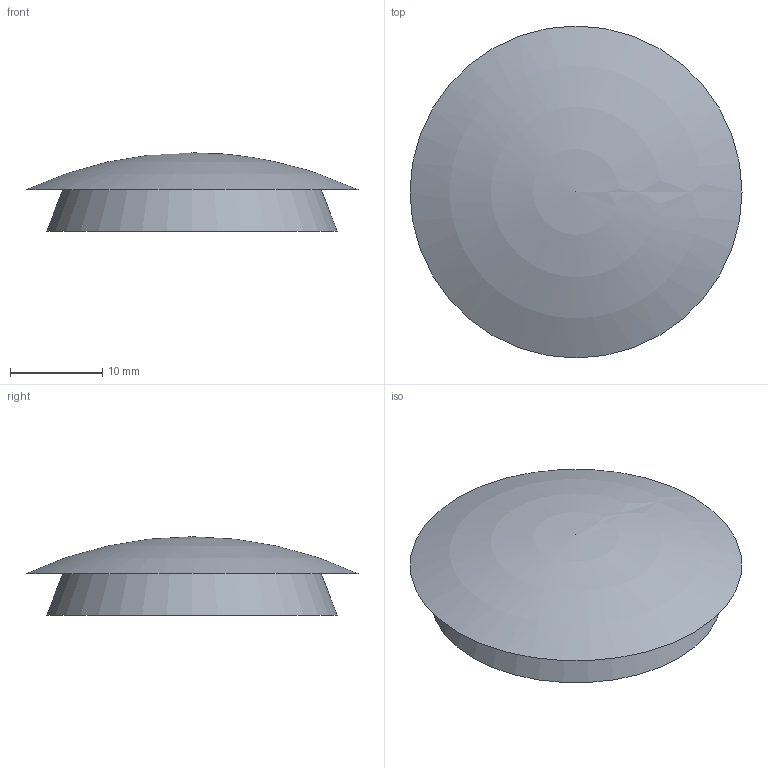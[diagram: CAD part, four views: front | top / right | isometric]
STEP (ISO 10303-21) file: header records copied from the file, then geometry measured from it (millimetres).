
FILE_DESCRIPTION(/* description */ (''),/* implementation_level */ '2;1');
FILE_NAME(/* name */ '\\NAS\db20\PR3-28\DR_PR3-28.stp',/* time_stamp */ '2017-09-22T11:50:08+09:00',/* author */ ('user'),/* organization */ (''),/* preprocessor_version */ 'ST-DEVELOPER v15.6',/* originating_system */ 'Autodesk Inventor 2015',/* authorisation */ '');
FILE_SCHEMA (('AUTOMOTIVE_DESIGN { 1 0 10303 214 3 1 1 }'));
Length unit declared in the file: millimetre
Products named in the file (1): DR_PR3-28
Bounding box: 36 x 36 x 8.5 mm (x, y, z)
Volume: 3550.6 mm3; surface area: 3022.9 mm2
Topology: 1 solids, 1 shells, 6 faces, 9 edges, 6 vertices
Faces by surface type: plane 3, cylinder 1, cone 1, sphere 1
Full cylindrical faces by diameter (mm): 20.5 x1
Entity records: 138 total; most frequent: DIRECTION 24, CARTESIAN_POINT 17, AXIS2_PLACEMENT_3D 12, EDGE_LOOP 10, ORIENTED_EDGE 10, FACE_OUTER_BOUND 6, ADVANCED_FACE 6, CIRCLE 5
